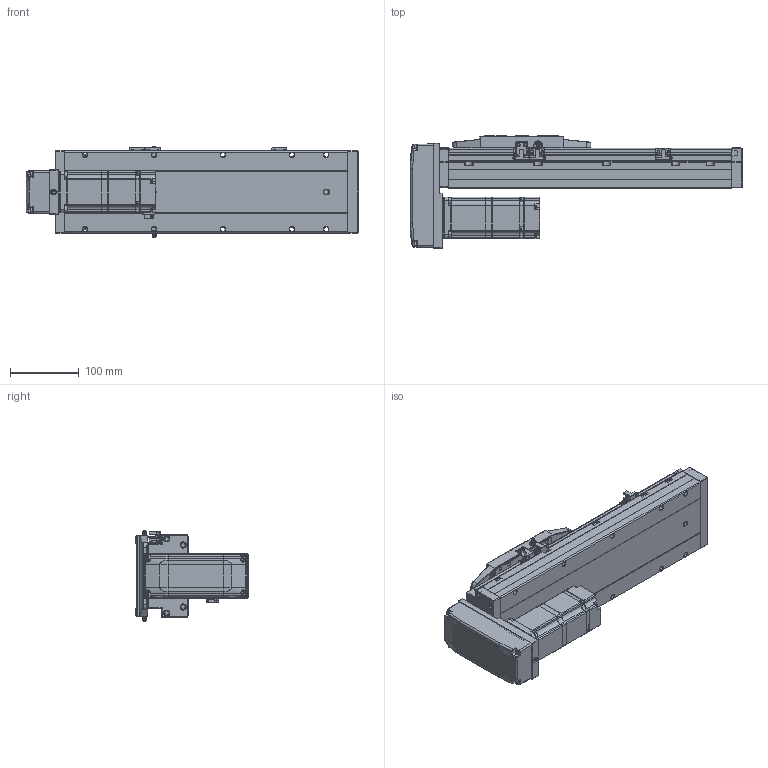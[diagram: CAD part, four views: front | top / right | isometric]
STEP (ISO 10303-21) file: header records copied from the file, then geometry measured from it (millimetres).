
FILE_DESCRIPTION (( 'STEP AP214' ), '1' );
FILE_NAME ('CTH12-L10-S200-BM-C40（简）.STEP', '2023-02-04T06:51:50', ( '' ), ( '' ), 'SwSTEP 2.0', 'SolidWorks 2018', '' );
FILE_SCHEMA (( 'AUTOMOTIVE_DESIGN' ));
Length unit declared in the file: millimetre
Products named in the file (25): 蚐郲; CTH400W垫板（3个厚）; CTH12-BM-02; 内六角圆柱头螺钉M3; CTH12底座-L411简（200行程）; 内六角圆柱头螺钉M3-1; AC60_Valor predeterminado; CTH400W假蚾啣; CTH12; CTH8耜蚾蟀諉啣ㄗ潠ㄘ; 湮賑怢  裔赽-1(CTH12)賑怢; PM-Y45; hex nuts, style 1-grades ab gb_GB_FASTENER_NUT_SNAB1 M3-N; CTH嫖萇羲壽假蚾啣; CTH12-L10-S200-BM-C40（简）; CTH12_body_3; CTH12覜茼え; BM-C40; CTH12賑怢郪磁; CTH12賑怢ㄗ潠ㄘ; 嫖萇羲壽郪磁1; CTH12-BL_body_4; 内六角圆柱头螺钉M5装饰螺钉; 内六角圆柱头螺钉M3-2; 嫖萇羲壽郪磁2
Assembly tree (45 placements, depth 4):
  CTH12-L10-S200-BM-C40（简）
    CTH12底座-L411简（200行程）
    蚐郲  x2
    CTH12_body_3
    CTH12-BL_body_4
    CTH12賑怢郪磁
      CTH12
        湮賑怢  裔赽-1(CTH12)賑怢
        CTH12賑怢ㄗ潠ㄘ
    CTH12覜茼え
    嫖萇羲壽郪磁1  x2
      CTH嫖萇羲壽假蚾啣
      PM-Y45
      内六角圆柱头螺钉M3-2
      内六角圆柱头螺钉M3-1
      hex nuts, style 1-grades ab gb_GB_FASTENER_NUT_SNAB1 M3-N
    嫖萇羲壽郪磁2
      CTH嫖萇羲壽假蚾啣
      PM-Y45
      内六角圆柱头螺钉M3-1  x2
      内六角圆柱头螺钉M3-2  x2
      hex nuts, style 1-grades ab gb_GB_FASTENER_NUT_SNAB1 M3-N  x2
    BM-C40
      CTH12-BM-02
      CTH8耜蚾蟀諉啣ㄗ潠ㄘ
    CTH400W垫板（3个厚）
    AC60_Valor predeterminado
    内六角圆柱头螺钉M3  x6
    内六角圆柱头螺钉M5装饰螺钉  x4
    CTH400W假蚾啣
Bounding box: 481.5 x 162.5 x 131.52 mm (x, y, z)
Volume: 3558873.8 mm3; surface area: 453896.7 mm2
Topology: 47 solids, 48 shells, 2640 faces, 6680 edges, 4259 vertices
Faces by surface type: plane 1438, cylinder 793, cone 255, bspline 102, torus 52
Entity records: 71265 total; most frequent: CARTESIAN_POINT 16349, ORIENTED_EDGE 10540, DIRECTION 10471, EDGE_CURVE 5270, AXIS2_PLACEMENT_3D 3547, VECTOR 3377, LINE 3377, VERTEX_POINT 3363
